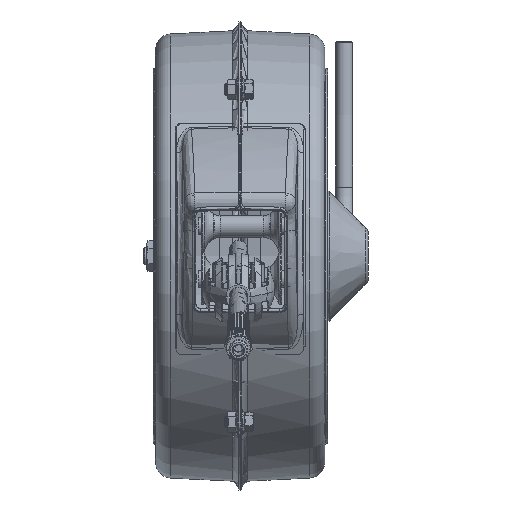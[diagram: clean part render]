
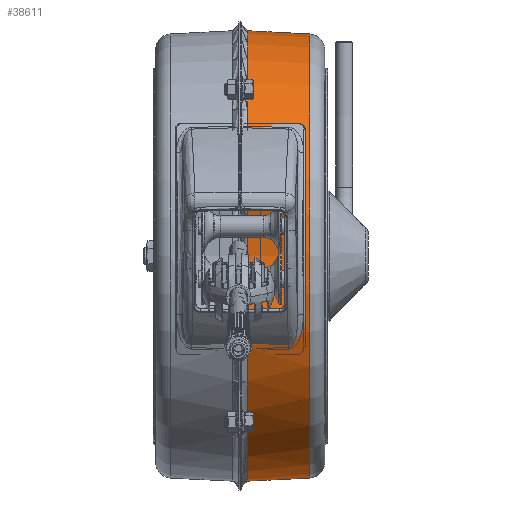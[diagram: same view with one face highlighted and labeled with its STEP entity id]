
A CAD part, top view. The second image highlights one B-rep face of the part: STEP entity #38611.
In plain terms, the highlighted conical face has half-angle 3 degrees and reference radius 153.533 mm.
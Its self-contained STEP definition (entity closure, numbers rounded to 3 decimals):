
#74 = CIRCLE ( 'NONE', #32561, 153.533 ) ;
#569 = CIRCLE ( 'NONE', #15143, 154.061 ) ;
#2623 = CARTESIAN_POINT ( 'NONE',  ( 38., 78.232, 132.72 ) ) ;
#2855 = VERTEX_POINT ( 'NONE', #36515 ) ;
#2961 = EDGE_CURVE ( 'NONE', #44638, #5796, #9923, .T. ) ;
#2985 = CARTESIAN_POINT ( 'NONE',  ( 48.076, 0., 0. ) ) ;
#3121 = CARTESIAN_POINT ( 'NONE',  ( 16.176, 78.405, 133.945 ) ) ;
#4028 = DIRECTION ( 'NONE',  ( 0., 0., -1. ) ) ;
#4833 = B_SPLINE_CURVE_WITH_KNOTS ( 'NONE', 3,
 ( #27345, #5748, #38271, #27503 ),
 .UNSPECIFIED., .F., .F.,
 ( 4, 4 ),
 ( 0., 0.005 ),
 .UNSPECIFIED. ) ;
#5150 = CARTESIAN_POINT ( 'NONE',  ( 5.264, -38.361, 150.979 ) ) ;
#5180 = ORIENTED_EDGE ( 'NONE', *, *, #20706, .F. ) ;
#5497 = EDGE_CURVE ( 'NONE', #38972, #33741, #569, .T. ) ;
#5748 = CARTESIAN_POINT ( 'NONE',  ( 41.333, 55.515, 143.524 ) ) ;
#5796 = VERTEX_POINT ( 'NONE', #41598 ) ;
#6135 = ORIENTED_EDGE ( 'NONE', *, *, #5497, .F. ) ;
#6939 = ORIENTED_EDGE ( 'NONE', *, *, #14368, .F. ) ;
#7768 = CARTESIAN_POINT ( 'NONE',  ( 43., -13.816, 153.177 ) ) ;
#7880 = DIRECTION ( 'NONE',  ( 0., 0., -1. ) ) ;
#8560 = EDGE_CURVE ( 'NONE', #12498, #27833, #4833, .T. ) ;
#9774 = AXIS2_PLACEMENT_3D ( 'NONE', #41189, #41037, #7880 ) ;
#9923 = CIRCLE ( 'NONE', #14094, 155.777 ) ;
#10033 = EDGE_CURVE ( 'NONE', #5796, #38972, #15958, .T. ) ;
#10188 = ORIENTED_EDGE ( 'NONE', *, *, #2961, .F. ) ;
#10283 = AXIS2_PLACEMENT_3D ( 'NONE', #21104, #21765, #25479 ) ;
#10769 = ORIENTED_EDGE ( 'NONE', *, *, #23323, .T. ) ;
#12059 = VERTEX_POINT ( 'NONE', #7768 ) ;
#12380 = FACE_OUTER_BOUND ( 'NONE', #25019, .T. ) ;
#12498 = VERTEX_POINT ( 'NONE', #29620 ) ;
#12721 = CARTESIAN_POINT ( 'NONE',  ( 38., -38.619, 149.142 ) ) ;
#13620 = ORIENTED_EDGE ( 'NONE', *, *, #44060, .F. ) ;
#14094 = AXIS2_PLACEMENT_3D ( 'NONE', #33141, #25930, #4028 ) ;
#14235 = CARTESIAN_POINT ( 'NONE',  ( 5.264, 78.491, 134.557 ) ) ;
#14368 = EDGE_CURVE ( 'NONE', #27833, #2855, #29778, .T. ) ;
#14434 = DIRECTION ( 'NONE',  ( -1., 0., 0. ) ) ;
#14790 = DIRECTION ( 'NONE',  ( -1., 0., 0. ) ) ;
#15143 = AXIS2_PLACEMENT_3D ( 'NONE', #18611, #14434, #32595 ) ;
#15958 = B_SPLINE_CURVE_WITH_KNOTS ( 'NONE', 3,
 ( #5150, #35066, #45577, #12721 ),
 .UNSPECIFIED., .F., .F.,
 ( 4, 4 ),
 ( 0., 0.033 ),
 .UNSPECIFIED. ) ;
#16327 = CARTESIAN_POINT ( 'NONE',  ( 38., -13.779, 153.443 ) ) ;
#16489 = CARTESIAN_POINT ( 'NONE',  ( 39.667, -13.791, 153.355 ) ) ;
#16701 = AXIS2_PLACEMENT_3D ( 'NONE', #2985, #36149, #28765 ) ;
#18181 = CARTESIAN_POINT ( 'NONE',  ( 48.076, 0., 0. ) ) ;
#18611 = CARTESIAN_POINT ( 'NONE',  ( 38., 0., 0. ) ) ;
#19547 = CARTESIAN_POINT ( 'NONE',  ( 38., -38.619, 149.142 ) ) ;
#19950 = EDGE_CURVE ( 'NONE', #33741, #12059, #29283, .T. ) ;
#20706 = EDGE_CURVE ( 'NONE', #12059, #12498, #38622, .T. ) ;
#21104 = CARTESIAN_POINT ( 'NONE',  ( 43., 0., 0. ) ) ;
#21765 = DIRECTION ( 'NONE',  ( -1., 0., 0. ) ) ;
#23323 = EDGE_CURVE ( 'NONE', #29280, #29280, #74, .T. ) ;
#25019 = EDGE_LOOP ( 'NONE', ( #47722, #10188, #13620, #6939, #35677, #5180, #25051, #6135 ) ) ;
#25051 = ORIENTED_EDGE ( 'NONE', *, *, #19950, .F. ) ;
#25479 = DIRECTION ( 'NONE',  ( 0., 0., -1. ) ) ;
#25930 = DIRECTION ( 'NONE',  ( -1., 0., 0. ) ) ;
#27294 = CARTESIAN_POINT ( 'NONE',  ( 41.333, -13.804, 153.266 ) ) ;
#27345 = CARTESIAN_POINT ( 'NONE',  ( 43., 55.502, 143.435 ) ) ;
#27503 = CARTESIAN_POINT ( 'NONE',  ( 38., 55.54, 143.701 ) ) ;
#27833 = VERTEX_POINT ( 'NONE', #35078 ) ;
#28398 = CARTESIAN_POINT ( 'NONE',  ( 38., -13.779, 153.443 ) ) ;
#28765 = DIRECTION ( 'NONE',  ( 0., 0., -1. ) ) ;
#29280 = VERTEX_POINT ( 'NONE', #44203 ) ;
#29283 = B_SPLINE_CURVE_WITH_KNOTS ( 'NONE', 3,
 ( #16327, #16489, #27294, #30999 ),
 .UNSPECIFIED., .F., .F.,
 ( 4, 4 ),
 ( 0., 0.005 ),
 .UNSPECIFIED. ) ;
#29620 = CARTESIAN_POINT ( 'NONE',  ( 43., 55.502, 143.435 ) ) ;
#29778 = CIRCLE ( 'NONE', #9774, 154.061 ) ;
#30999 = CARTESIAN_POINT ( 'NONE',  ( 43., -13.816, 153.177 ) ) ;
#32561 = AXIS2_PLACEMENT_3D ( 'NONE', #18181, #14790, #43962 ) ;
#32595 = DIRECTION ( 'NONE',  ( 0., 0., -1. ) ) ;
#33141 = CARTESIAN_POINT ( 'NONE',  ( 5.264, 0., 0. ) ) ;
#33741 = VERTEX_POINT ( 'NONE', #28398 ) ;
#35066 = CARTESIAN_POINT ( 'NONE',  ( 16.176, -38.447, 150.367 ) ) ;
#35078 = CARTESIAN_POINT ( 'NONE',  ( 38., 55.54, 143.701 ) ) ;
#35456 = FACE_BOUND ( 'NONE', #38784, .T. ) ;
#35677 = ORIENTED_EDGE ( 'NONE', *, *, #8560, .F. ) ;
#36119 = CARTESIAN_POINT ( 'NONE',  ( 27.088, 78.318, 133.333 ) ) ;
#36149 = DIRECTION ( 'NONE',  ( -1., 0., 0. ) ) ;
#36515 = CARTESIAN_POINT ( 'NONE',  ( 38., 78.232, 132.72 ) ) ;
#37056 = B_SPLINE_CURVE_WITH_KNOTS ( 'NONE', 3,
 ( #2623, #36119, #3121, #14235 ),
 .UNSPECIFIED., .F., .F.,
 ( 4, 4 ),
 ( 0., 0.033 ),
 .UNSPECIFIED. ) ;
#38271 = CARTESIAN_POINT ( 'NONE',  ( 39.667, 55.527, 143.613 ) ) ;
#38611 = ADVANCED_FACE ( 'NONE', ( #35456, #12380 ), #47528, .T. ) ;
#38622 = CIRCLE ( 'NONE', #10283, 153.799 ) ;
#38784 = EDGE_LOOP ( 'NONE', ( #10769 ) ) ;
#38972 = VERTEX_POINT ( 'NONE', #19547 ) ;
#39608 = CARTESIAN_POINT ( 'NONE',  ( 5.264, 78.491, 134.557 ) ) ;
#41037 = DIRECTION ( 'NONE',  ( -1., 0., 0. ) ) ;
#41189 = CARTESIAN_POINT ( 'NONE',  ( 38., 0., 0. ) ) ;
#41598 = CARTESIAN_POINT ( 'NONE',  ( 5.264, -38.361, 150.979 ) ) ;
#43962 = DIRECTION ( 'NONE',  ( 0., 0., -1. ) ) ;
#44060 = EDGE_CURVE ( 'NONE', #2855, #44638, #37056, .T. ) ;
#44203 = CARTESIAN_POINT ( 'NONE',  ( 48.076, 0., -153.533 ) ) ;
#44638 = VERTEX_POINT ( 'NONE', #39608 ) ;
#45577 = CARTESIAN_POINT ( 'NONE',  ( 27.088, -38.533, 149.755 ) ) ;
#47528 = CONICAL_SURFACE ( 'NONE', #16701, 153.533, 0.052 ) ;
#47722 = ORIENTED_EDGE ( 'NONE', *, *, #10033, .F. ) ;
